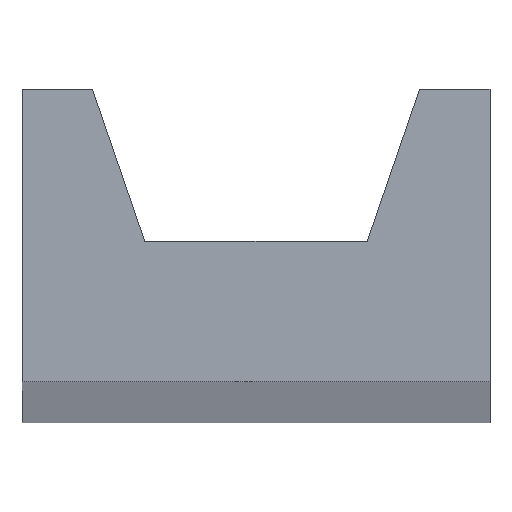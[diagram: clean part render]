
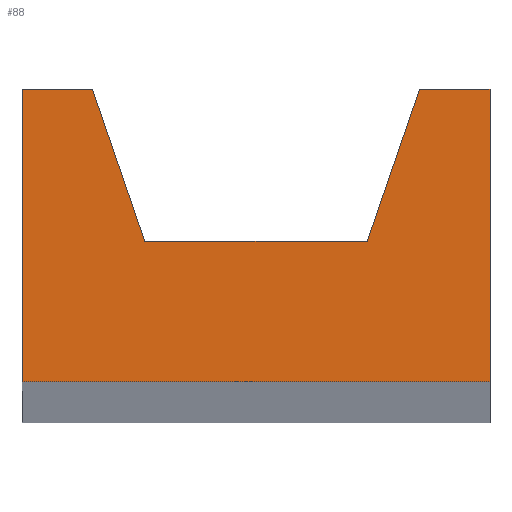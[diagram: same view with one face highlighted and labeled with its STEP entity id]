
A CAD part, top view. The second image highlights one B-rep face of the part: STEP entity #88.
In plain terms, the highlighted planar face has unit normal (0, 0, 1).
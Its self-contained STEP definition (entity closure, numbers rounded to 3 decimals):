
#2 = EDGE_CURVE ( 'NONE', #211, #161, #236, .T. ) ;
#4 = ORIENTED_EDGE ( 'NONE', *, *, #288, .T. ) ;
#9 = ORIENTED_EDGE ( 'NONE', *, *, #327, .T. ) ;
#13 = DIRECTION ( 'NONE',  ( 0., -1., 0. ) ) ;
#16 = PLANE ( 'NONE',  #168 ) ;
#22 = LINE ( 'NONE', #120, #244 ) ;
#25 = DIRECTION ( 'NONE',  ( 0., 1., 0. ) ) ;
#27 = VECTOR ( 'NONE', #31, 1000. ) ;
#31 = DIRECTION ( 'NONE',  ( -0.326, 0.946, 0. ) ) ;
#48 = VECTOR ( 'NONE', #116, 1000. ) ;
#59 = ORIENTED_EDGE ( 'NONE', *, *, #2, .T. ) ;
#60 = FACE_OUTER_BOUND ( 'NONE', #169, .T. ) ;
#62 = VERTEX_POINT ( 'NONE', #138 ) ;
#70 = VECTOR ( 'NONE', #86, 1000. ) ;
#76 = EDGE_CURVE ( 'NONE', #82, #62, #289, .T. ) ;
#77 = LINE ( 'NONE', #174, #78 ) ;
#78 = VECTOR ( 'NONE', #178, 1000. ) ;
#82 = VERTEX_POINT ( 'NONE', #237 ) ;
#84 = LINE ( 'NONE', #203, #297 ) ;
#86 = DIRECTION ( 'NONE',  ( -1., 0., 0. ) ) ;
#88 = ADVANCED_FACE ( 'NONE', ( #60 ), #16, .F. ) ;
#93 = VECTOR ( 'NONE', #219, 1000. ) ;
#97 = DIRECTION ( 'NONE',  ( -1., 0., 0. ) ) ;
#99 = CARTESIAN_POINT ( 'NONE',  ( -13.976, 25., 0. ) ) ;
#114 = CARTESIAN_POINT ( 'NONE',  ( -20., 0., 0. ) ) ;
#116 = DIRECTION ( 'NONE',  ( -0.326, -0.946, 0. ) ) ;
#120 = CARTESIAN_POINT ( 'NONE',  ( 20., 0., 0. ) ) ;
#126 = DIRECTION ( 'NONE',  ( 0., 0., -1. ) ) ;
#133 = ORIENTED_EDGE ( 'NONE', *, *, #182, .T. ) ;
#138 = CARTESIAN_POINT ( 'NONE',  ( 9.5, 12., 0. ) ) ;
#142 = VERTEX_POINT ( 'NONE', #330 ) ;
#159 = EDGE_CURVE ( 'NONE', #161, #142, #77, .T. ) ;
#161 = VERTEX_POINT ( 'NONE', #269 ) ;
#162 = VERTEX_POINT ( 'NONE', #99 ) ;
#168 = AXIS2_PLACEMENT_3D ( 'NONE', #222, #126, #97 ) ;
#169 = EDGE_LOOP ( 'NONE', ( #59, #295, #186, #9, #172, #226, #4, #133 ) ) ;
#172 = ORIENTED_EDGE ( 'NONE', *, *, #76, .T. ) ;
#174 = CARTESIAN_POINT ( 'NONE',  ( 20., 0., 0. ) ) ;
#178 = DIRECTION ( 'NONE',  ( 1., 0., 0. ) ) ;
#182 = EDGE_CURVE ( 'NONE', #162, #211, #329, .T. ) ;
#185 = LINE ( 'NONE', #313, #70 ) ;
#186 = ORIENTED_EDGE ( 'NONE', *, *, #220, .T. ) ;
#194 = VECTOR ( 'NONE', #13, 1000. ) ;
#195 = CARTESIAN_POINT ( 'NONE',  ( 9.5, 12., 0. ) ) ;
#202 = CARTESIAN_POINT ( 'NONE',  ( 20., 25., 0. ) ) ;
#203 = CARTESIAN_POINT ( 'NONE',  ( -9.5, 12., 0. ) ) ;
#211 = VERTEX_POINT ( 'NONE', #270 ) ;
#217 = VERTEX_POINT ( 'NONE', #245 ) ;
#218 = CARTESIAN_POINT ( 'NONE',  ( -20., 25., 0. ) ) ;
#219 = DIRECTION ( 'NONE',  ( -1., 0., 0. ) ) ;
#220 = EDGE_CURVE ( 'NONE', #142, #312, #22, .T. ) ;
#222 = CARTESIAN_POINT ( 'NONE',  ( -20., 25., 0. ) ) ;
#226 = ORIENTED_EDGE ( 'NONE', *, *, #315, .T. ) ;
#236 = LINE ( 'NONE', #114, #194 ) ;
#237 = CARTESIAN_POINT ( 'NONE',  ( 13.976, 25., 0. ) ) ;
#244 = VECTOR ( 'NONE', #25, 1000. ) ;
#245 = CARTESIAN_POINT ( 'NONE',  ( -9.5, 12., 0. ) ) ;
#253 = CARTESIAN_POINT ( 'NONE',  ( -9.5, 12., 0. ) ) ;
#269 = CARTESIAN_POINT ( 'NONE',  ( -20., 0., 0. ) ) ;
#270 = CARTESIAN_POINT ( 'NONE',  ( -20., 25., 0. ) ) ;
#286 = LINE ( 'NONE', #253, #27 ) ;
#288 = EDGE_CURVE ( 'NONE', #217, #162, #286, .T. ) ;
#289 = LINE ( 'NONE', #195, #48 ) ;
#295 = ORIENTED_EDGE ( 'NONE', *, *, #159, .T. ) ;
#297 = VECTOR ( 'NONE', #307, 1000. ) ;
#307 = DIRECTION ( 'NONE',  ( -1., 0., 0. ) ) ;
#312 = VERTEX_POINT ( 'NONE', #202 ) ;
#313 = CARTESIAN_POINT ( 'NONE',  ( 20., 25., 0. ) ) ;
#315 = EDGE_CURVE ( 'NONE', #62, #217, #84, .T. ) ;
#327 = EDGE_CURVE ( 'NONE', #312, #82, #185, .T. ) ;
#329 = LINE ( 'NONE', #218, #93 ) ;
#330 = CARTESIAN_POINT ( 'NONE',  ( 20., 0., 0. ) ) ;
